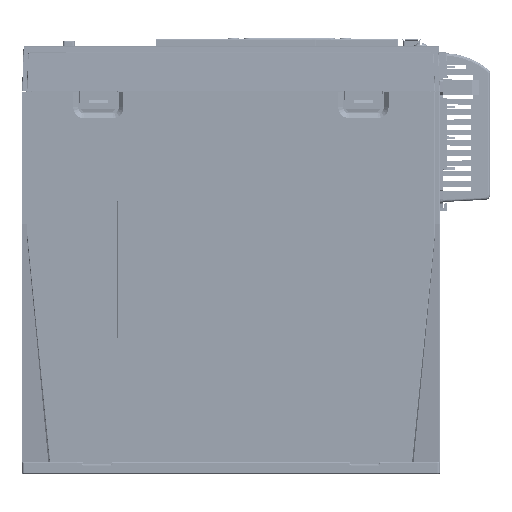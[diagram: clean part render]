
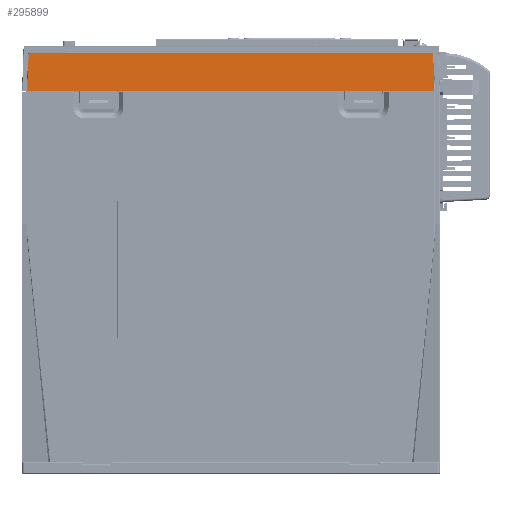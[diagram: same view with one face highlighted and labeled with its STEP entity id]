
A CAD part, left-side view. The second image highlights one B-rep face of the part: STEP entity #295899.
In plain terms, the highlighted planar face has unit normal (-0.999, 0, 0.035).
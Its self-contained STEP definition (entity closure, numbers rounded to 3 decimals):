
#278890=DIRECTION('',(0.,-1.,0.));
#278891=VECTOR('',#278890,170.464);
#278892=CARTESIAN_POINT('',(-40.,172.732,
160.15));
#278893=LINE('',#278892,#278891);
#281453=DIRECTION('',(-0.035,-0.033,
-0.999));
#281454=VECTOR('',#281453,15.403);
#281455=CARTESIAN_POINT('',(-39.463,2.778,
175.535));
#281456=LINE('',#281455,#281454);
#281457=DIRECTION('',(0.035,-0.033,0.999));
#281458=VECTOR('',#281457,15.403);
#281459=CARTESIAN_POINT('',(-40.,172.732,
160.15));
#281460=LINE('',#281459,#281458);
#281466=CARTESIAN_POINT('',(-39.463,2.778,
175.535));
#281467=CARTESIAN_POINT('',(-39.459,2.782,
175.639));
#281468=CARTESIAN_POINT('',(-39.452,2.825,
175.831));
#281469=CARTESIAN_POINT('',(-39.443,3.001,
176.092));
#281470=CARTESIAN_POINT('',(-39.437,3.265,
176.264));
#281471=CARTESIAN_POINT('',(-39.436,3.457,
176.304));
#281472=CARTESIAN_POINT('',(-39.436,3.561,
176.307));
#281510=DIRECTION('',(0.,1.,0.));
#281511=VECTOR('',#281510,167.862);
#281512=CARTESIAN_POINT('',(-39.436,3.561,
176.307));
#281513=LINE('',#281512,#281511);
#281518=CARTESIAN_POINT('',(-39.448,172.088,
175.951));
#281519=CARTESIAN_POINT('',(-39.45,172.116,
175.909));
#281520=CARTESIAN_POINT('',(-39.453,172.163,
175.823));
#281521=CARTESIAN_POINT('',(-39.458,172.208,
175.681));
#281522=CARTESIAN_POINT('',(-39.461,172.22,
175.584));
#281523=CARTESIAN_POINT('',(-39.463,172.222,
175.535));
#281535=CARTESIAN_POINT('',(-39.436,171.423,
176.307));
#281536=CARTESIAN_POINT('',(-39.436,171.514,
176.306));
#281537=CARTESIAN_POINT('',(-39.437,171.684,
176.278));
#281538=CARTESIAN_POINT('',(-39.441,171.921,
176.151));
#281539=CARTESIAN_POINT('',(-39.446,172.038,
176.025));
#281540=CARTESIAN_POINT('',(-39.448,172.088,
175.951));
#281542=CARTESIAN_POINT('',(-40.,172.732,
160.15));
#289066=VERTEX_POINT('',#281542);
#289067=CARTESIAN_POINT('',(-40.,2.268,
160.15));
#289068=VERTEX_POINT('',#289067);
#289481=CARTESIAN_POINT('',(-39.463,172.222,
175.535));
#289482=VERTEX_POINT('',#289481);
#289483=VERTEX_POINT('',#281466);
#289484=VERTEX_POINT('',#281472);
#289485=VERTEX_POINT('',#281518);
#289486=VERTEX_POINT('',#281535);
#295880=CARTESIAN_POINT('',(-40.,172.731,
160.15));
#295881=DIRECTION('',(-0.999,0.,0.035));
#295882=DIRECTION('',(0.035,0.,0.999));
#295883=AXIS2_PLACEMENT_3D('',#295880,#295881,#295882);
#295884=PLANE('',#295883);
#295886=ORIENTED_EDGE('',*,*,#295885,.F.);
#295887=ORIENTED_EDGE('',*,*,#295866,.T.);
#295888=ORIENTED_EDGE('',*,*,#291666,.F.);
#295890=ORIENTED_EDGE('',*,*,#295889,.T.);
#295892=ORIENTED_EDGE('',*,*,#295891,.F.);
#295894=ORIENTED_EDGE('',*,*,#295893,.F.);
#295896=ORIENTED_EDGE('',*,*,#295895,.F.);
#295897=EDGE_LOOP('',(#295886,#295887,#295888,#295890,#295892,#295894,#295896));
#295898=FACE_OUTER_BOUND('',#295897,.F.);
#281473=B_SPLINE_CURVE_WITH_KNOTS('',3,(#281466,#281467,#281468,#281469,#281470,
#281471,#281472),.UNSPECIFIED.,.F.,.F.,(4,1,1,1,4),(0.,0.25,0.5,0.75,
1.),.UNSPECIFIED.);
#281524=B_SPLINE_CURVE_WITH_KNOTS('',3,(#281518,#281519,#281520,#281521,#281522,
#281523),.UNSPECIFIED.,.F.,.F.,(4,1,1,4),(0.,0.333,
0.667,1.),.UNSPECIFIED.);
#281541=B_SPLINE_CURVE_WITH_KNOTS('',3,(#281535,#281536,#281537,#281538,#281539,
#281540),.UNSPECIFIED.,.F.,.F.,(4,1,1,4),(0.,0.333,
0.667,1.),.UNSPECIFIED.);
#291666=EDGE_CURVE('',#289066,#289068,#278893,.T.);
#295866=EDGE_CURVE('',#289483,#289068,#281456,.T.);
#295885=EDGE_CURVE('',#289483,#289484,#281473,.T.);
#295889=EDGE_CURVE('',#289066,#289482,#281460,.T.);
#295891=EDGE_CURVE('',#289485,#289482,#281524,.T.);
#295893=EDGE_CURVE('',#289486,#289485,#281541,.T.);
#295895=EDGE_CURVE('',#289484,#289486,#281513,.T.);
#295899=ADVANCED_FACE('',(#295898),#295884,.T.);
